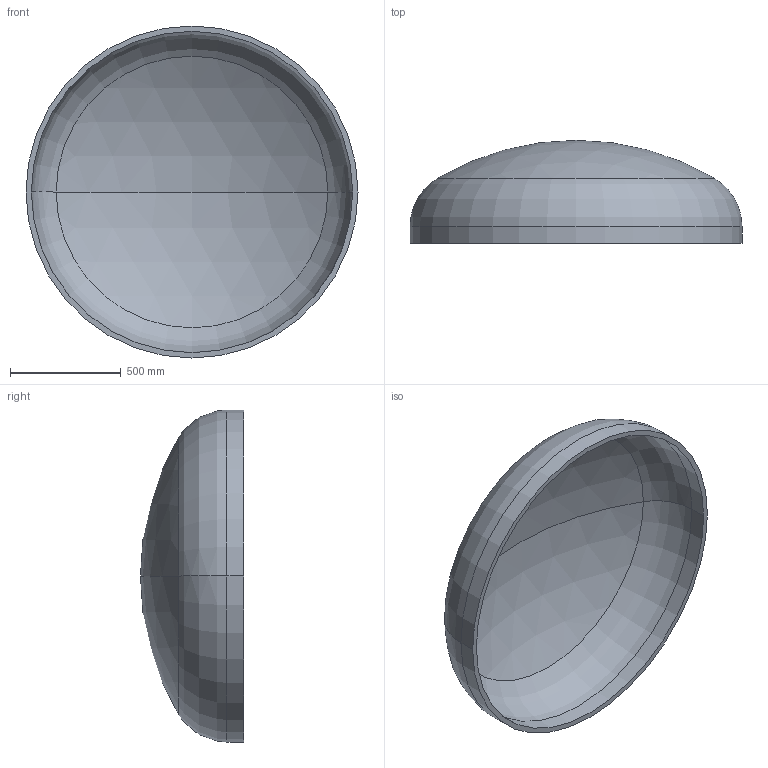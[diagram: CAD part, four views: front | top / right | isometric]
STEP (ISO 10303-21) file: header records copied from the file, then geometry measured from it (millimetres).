
FILE_DESCRIPTION (( 'STEP AP203' ), '1' );
FILE_NAME ('DIN 28013 Korbbogenform_-_Boden DIN 28013 - 1500 x 75 - I - s=24.step', '2016-07-01T10:40:03', ( '' ), ( '' ), 'SwSTEP 2.0', 'SolidWorks 2013', '' );
FILE_SCHEMA (( 'CONFIG_CONTROL_DESIGN' ));
Length unit declared in the file: millimetre
Products named in the file (1): DIN 28013 Korbbogenform_-_Boden DIN 28013 - 1500 x 75 - I - s=24
Bounding box: 1500 x 465.4 x 1500 mm (x, y, z)
Volume: 65809251.5 mm3; surface area: 5596596.6 mm2
Topology: 1 solids, 1 shells, 13 faces, 24 edges, 14 vertices
Faces by surface type: torus 4, cylinder 4, sphere 4, plane 1
Entity records: 407 total; most frequent: DIRECTION 72, CARTESIAN_POINT 52, ORIENTED_EDGE 48, AXIS2_PLACEMENT_3D 34, EDGE_CURVE 24, CIRCLE 20, EDGE_LOOP 14, VERTEX_POINT 14
